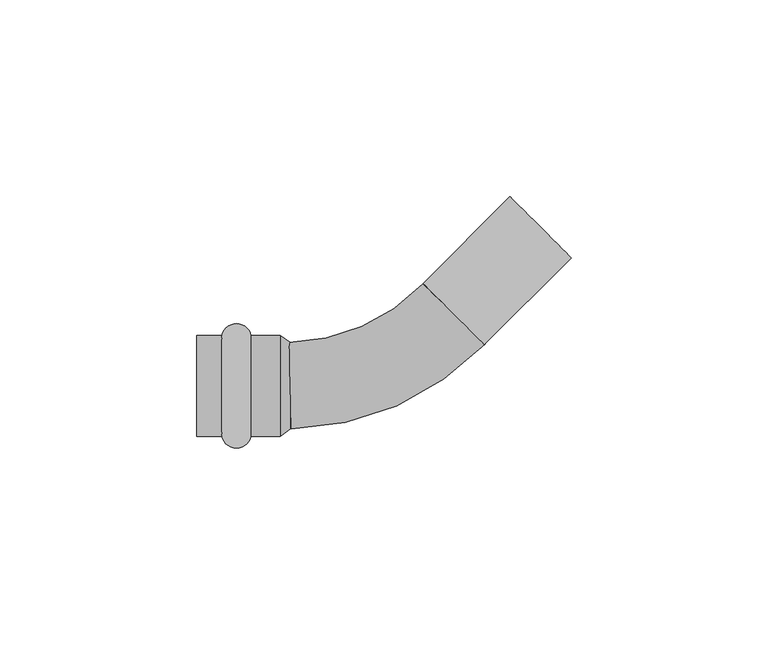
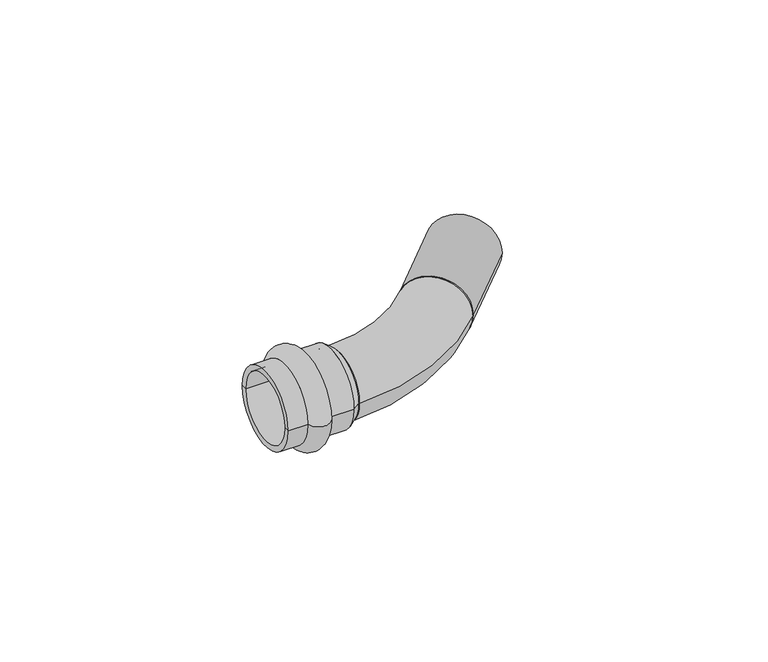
"""IFC4 building model written with IfcOpenShell, lengths in millimetres: pipe fitting geometry, VALTEC_VTi.958.I_Угольник 45° (раструб–труба) нержавеющая сталь. : VTi.958.I."""

from ifc_helpers import new_model, si_unit, point, frame, origin, origin_2d, place, context, project, spatial, polyline, circle_curve, ellipse_curve, trimmed, segment, composite_curve, outline, extrude, source, transform, mapped, element, save
from ifc_brep_helpers import plane_surface, cylinder_surface, revolved_surface, advanced_brep


def pipe_fitting_4160fbde(model_context):
    return source(origin(), model_context, "Body", "SolidModel", [
        advanced_brep(
        [(-40.6242346, -12.8, 0.0), (-40.6242346, 12.8, 0.0), (-33.2757654, 12.8, 0.0), (-33.2757654, -12.8, 0.0), (-47.0, -12.8, 0.0), (-47.0, 12.8, 0.0), (-47.0, -11.0, 0.0), (-47.0, 11.0, 0.0), (-25.85, -11.0, 0.0), (-25.85, 11.0, 0.0), (-25.85, -12.8, 0.0), (-25.85, 12.8, 0.0)],
        [
            (0, 1, circle_curve(frame((-40.6242346, 0.0, 0.0), z_axis=(1.0, 0.0, 0.0), x_axis=(0.0, 1.0, 0.0)), 12.8)),
            (1, 2, circle_curve(frame((-36.95, 12.05, 0.0), z_axis=(0.0, 0.0, -1.0), x_axis=(1.0, 0.0, 0.0)), 3.75)),
            (2, 3, circle_curve(frame((-33.2757654, 0.0, 0.0), z_axis=(-1.0, 0.0, 0.0), x_axis=(0.0, 1.0, 0.0)), 12.8)),
            (3, 0, circle_curve(frame((-36.95, -12.05, 0.0), z_axis=(0.0, 0.0, -1.0), x_axis=(1.0, 0.0, 0.0)), 3.75)),
            (1, 0, circle_curve(frame((-40.6242346, 0.0, 0.0), z_axis=(1.0, 0.0, 0.0), x_axis=(0.0, 1.0, 0.0)), 12.8)),
            (3, 2, circle_curve(frame((-33.2757654, 0.0, 0.0), z_axis=(-1.0, 0.0, 0.0), x_axis=(0.0, 1.0, 0.0)), 12.8)),
            (4, 5, circle_curve(frame((-47.0, 0.0, 0.0), z_axis=(1.0, 0.0, 0.0), x_axis=(0.0, 1.0, 0.0)), 12.8)),
            (5, 1),
            (0, 4),
            (5, 4, circle_curve(frame((-47.0, 0.0, 0.0), z_axis=(1.0, 0.0, 0.0), x_axis=(0.0, 1.0, 0.0)), 12.8)),
            (6, 7, circle_curve(frame((-47.0, 0.0, 0.0), z_axis=(1.0, 0.0, 0.0), x_axis=(0.0, 1.0, 0.0)), 11.0)),
            (7, 5),
            (4, 6),
            (7, 6, circle_curve(frame((-47.0, 0.0, 0.0), z_axis=(1.0, 0.0, 0.0), x_axis=(0.0, 1.0, 0.0)), 11.0)),
            (8, 9, circle_curve(frame((-25.85, 0.0, 0.0), z_axis=(1.0, 0.0, 0.0), x_axis=(0.0, 1.0, 0.0)), 11.0)),
            (9, 7),
            (6, 8),
            (9, 8, circle_curve(frame((-25.85, 0.0, 0.0), z_axis=(1.0, 0.0, 0.0), x_axis=(0.0, 1.0, 0.0)), 11.0)),
            (10, 11, circle_curve(frame((-25.85, 0.0, 0.0), z_axis=(1.0, 0.0, 0.0), x_axis=(0.0, 1.0, 0.0)), 12.8)),
            (11, 9),
            (8, 10),
            (11, 10, circle_curve(frame((-25.85, 0.0, 0.0), z_axis=(1.0, 0.0, 0.0), x_axis=(0.0, 1.0, 0.0)), 12.8)),
            (2, 11),
            (10, 3),
        ],
        [
            revolved_surface(trimmed(ellipse_curve(frame((-36.95, 12.05, 0.0), z_axis=(0.0, 0.0, 1.0), x_axis=(1.0, 0.0, 0.0)), 3.75, 3.75), [point((-33.2757654, 12.8, 0.0))], [point((-40.6242346, 12.8, 0.0))], True, "CARTESIAN"), (-50.5364426, 0.0, 0.0), (-1.0, 0.0, 0.0)),
            cylinder_surface(frame((-50.5364426, 0.0, 0.0), z_axis=(-1.0, 0.0, 0.0), x_axis=(0.0, 1.0, 0.0)), 12.8),
            plane_surface(frame((-47.0, 0.0, 0.0), z_axis=(-1.0, 0.0, 0.0), x_axis=(0.0, 1.0, 0.0))),
            revolved_surface(polyline([(-47.0, 11.0, 0.0), (-25.85, 11.0, 0.0)]), (-50.5364426, 0.0, 0.0), (-1.0, 0.0, 0.0)),
            plane_surface(frame((-25.85, 0.0, 0.0), z_axis=(1.0, 0.0, 0.0), x_axis=(0.0, 1.0, 0.0))),
        ],
        [
            (0, [[1, 2, 3, 4]]),
            (0, [[5, -4, 6, -2]]),
            (1, [[7, 8, -1, 9]]),
            (1, [[10, -9, -5, -8]]),
            (2, [[11, 12, -7, 13]]),
            (2, [[14, -13, -10, -12]]),
            (3, [[15, 16, -11, 17]]),
            (3, [[18, -17, -14, -16]]),
            (4, [[19, 20, -15, 21]]),
            (4, [[22, -21, -18, -20]]),
            (1, [[-3, 23, -19, 24]]),
            (1, [[-6, -24, -22, -23]]),
        ],
    ),
        extrude(outline(composite_curve([segment(trimmed(circle_curve(origin_2d(), 11.0), [point((0.0, -11.0))], [point((0.0, 11.0))], False, "CARTESIAN"), True, "CONTINUOUS"), segment(trimmed(circle_curve(origin_2d(), 11.0), [point((0.0, 11.0))], [point((0.0, -11.0))], False, "CARTESIAN"), True, "CONTINUOUS")], self_intersect=False)), frame((18.2787103, 18.2787103, 0.0), z_axis=(0.7071067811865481, 0.707106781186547, 0.0), x_axis=(0.0, 0.0, 1.0)), (0.0, 0.0, 1.0), 31.15),
        advanced_brep(
        [(-23.0317609, -10.997527, 0.0), (-23.4982391, 10.997527, 0.0), (26.2290694, 10.6766191, 0.0), (10.3283512, 25.8808015, 0.0)],
        [
            (0, 1, circle_curve(frame((-23.265, 0.0, 0.0), z_axis=(-0.9997751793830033, -0.021203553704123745, 0.0), x_axis=(-0.021203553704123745, 0.9997751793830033, 0.0)), 11.0)),
            (1, 0, circle_curve(frame((-23.265, 0.0, 0.0), z_axis=(-0.9997751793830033, -0.021203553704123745, 0.0), x_axis=(-0.021203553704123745, 0.9997751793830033, 0.0)), 11.0)),
            (2, 3, circle_curve(frame((18.2787103, 18.2787103, 0.0), z_axis=(0.6910991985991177, 0.7227599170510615, 0.0), x_axis=(-0.7227599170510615, 0.6910991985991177, 0.0)), 11.0)),
            (3, 2, circle_curve(frame((18.2787103, 18.2787103, 0.0), z_axis=(0.6910991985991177, 0.7227599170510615, 0.0), x_axis=(-0.7227599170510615, 0.6910991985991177, 0.0)), 11.0)),
            (3, 1, circle_curve(frame((-24.5206002, 59.2031839, 0.0), z_axis=(0.0, 0.0, -1.0), x_axis=(0.021203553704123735, -0.9997751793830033, 0.0)), 48.216497)),
            (0, 2, circle_curve(frame((-24.5206002, 59.2031839, 0.0), z_axis=(0.0, 0.0, 1.0), x_axis=(0.021203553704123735, -0.9997751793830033, 0.0)), 70.216497)),
        ],
        [
            plane_surface(frame((-23.265, 0.0, 0.0), z_axis=(-0.9997751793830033, -0.02120355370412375, 0.0), x_axis=(0.0, 0.0, 1.0))),
            plane_surface(frame((18.2787103, 18.2787103, 0.0), z_axis=(0.6910991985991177, 0.7227599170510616, 0.0), x_axis=(0.0, 0.0, 1.0))),
            revolved_surface(trimmed(ellipse_curve(frame((-23.265, 0.0, 0.0), z_axis=(-0.9997751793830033, -0.021203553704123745, 0.0), x_axis=(-0.021203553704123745, 0.9997751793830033, 0.0)), 11.0, 11.0), [point((-23.0317609, -10.997527, 0.0))], [point((-23.4982391, 10.997527, 0.0))], True, "CARTESIAN"), (-24.5206002, 59.2031839, 0.0), (0.0, 0.0, 1.0)),
            revolved_surface(trimmed(ellipse_curve(frame((-23.265, 0.0, 0.0), z_axis=(-0.9997751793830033, -0.021203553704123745, 0.0), x_axis=(-0.021203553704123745, 0.9997751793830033, 0.0)), 11.0, 11.0), [point((-23.4982391, 10.997527, 0.0))], [point((-23.0317609, -10.997527, 0.0))], True, "CARTESIAN"), (-24.5206002, 59.2031839, 0.0), (0.0, 0.0, 1.0)),
        ],
        [
            (0, [[1, 2]]),
            (1, [[3, 4]]),
            (2, [[5, -1, 6, -4]]),
            (3, [[-6, -2, -5, -3]]),
        ],
    ),
        advanced_brep(
        [(-25.85, -12.8, 0.0), (-25.85, 12.8, 0.0), (-23.265, -11.0, 0.0), (-23.265, 11.0, 0.0)],
        [
            (0, 1, circle_curve(frame((-25.85, 0.0, 0.0), z_axis=(-1.0, 0.0, 0.0), x_axis=(0.0, -1.0, 0.0)), 12.8)),
            (1, 0, circle_curve(frame((-25.85, 0.0, 0.0), z_axis=(-1.0, 0.0, 0.0), x_axis=(0.0, 1.0, 0.0)), 12.8)),
            (2, 3, circle_curve(frame((-23.265, 0.0, 0.0), z_axis=(1.0, 0.0, 0.0), x_axis=(0.0, 1.0, 0.0)), 11.0)),
            (3, 2, circle_curve(frame((-23.265, 0.0, 0.0), z_axis=(1.0, 0.0, 0.0), x_axis=(0.0, -1.0, 0.0)), 11.0)),
            (2, 0),
            (1, 3),
        ],
        [
            plane_surface(frame((-25.85, 0.0, 0.0), z_axis=(-1.0, 0.0, 0.0), x_axis=(0.0, 0.0, -1.0))),
            plane_surface(frame((-23.265, 0.0, 0.0), z_axis=(1.0, 0.0, 0.0), x_axis=(0.0, 0.0, -1.0))),
            revolved_surface(polyline([(-23.265, -10.999999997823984, 0.0), (-25.85, -12.8, 0.0)]), (-7.4677778, 0.0, 0.0), (-1.0, 0.0, 0.0)),
            revolved_surface(polyline([(-23.265, 10.999999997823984, 0.0), (-25.85, 12.8, 0.0)]), (-7.4677778, 0.0, 0.0), (-1.0, 0.0, 0.0)),
        ],
        [
            (0, [[1, 2]]),
            (1, [[3, 4]]),
            (2, [[-3, 5, -2, 6]]),
            (3, [[-4, -6, -1, -5]]),
        ],
    ),
    ])


if __name__ == "__main__":
    model = new_model("IFC4")
    model_context = context("Model", 3, world=origin())
    ifc_project = project(units=[si_unit("LENGTHUNIT", "METRE", prefix="MILLI")], contexts=[model_context])
    site = spatial("IfcSite", under=ifc_project)
    building = spatial("IfcBuilding", under=site)
    placement = place(None, origin())
    pipe_fitting_shape = pipe_fitting_4160fbde(model_context)
    element("IfcPipeFitting", 1, ObjectType="VALTEC_VTi.958.I_Угольник 45° (раструб–труба) нержавеющая сталь. : VTi.958.I", at=placement, inside=building, context=model_context, shape_type="MappedRepresentation", body=[
        mapped(pipe_fitting_shape, transform((0.0, 0.0, 0.0), x_axis=(1.0, 0.0, 0.0), y_axis=(0.0, 1.0, 0.0), z_axis=(0.0, 0.0, 1.0))),
    ])
    save(model, "model.ifc")
